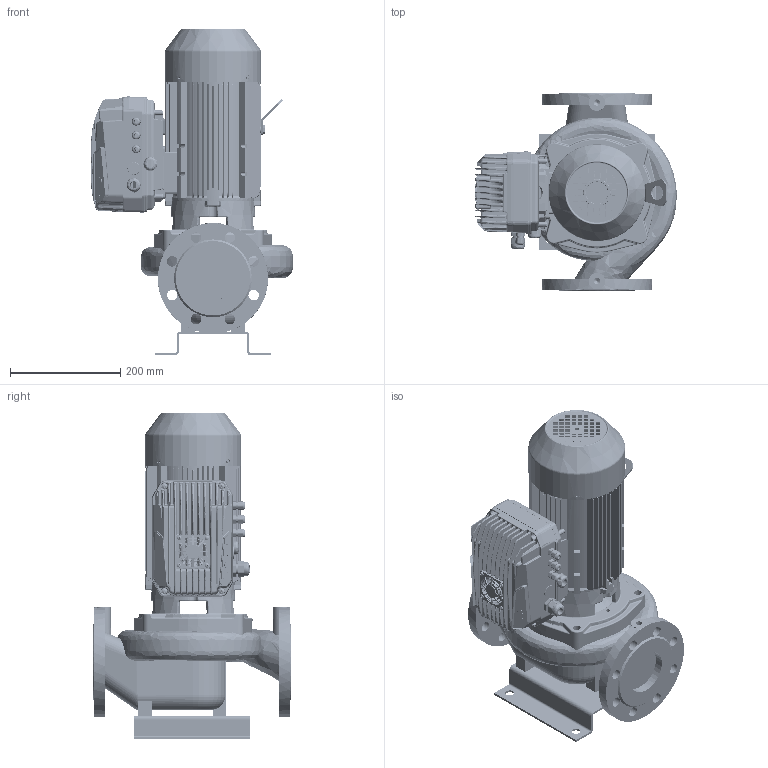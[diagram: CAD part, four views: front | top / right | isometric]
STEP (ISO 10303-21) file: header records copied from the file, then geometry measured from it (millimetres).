
FILE_DESCRIPTION(('STEP AP214'),'1');
FILE_NAME('export.stp','2022-09-07T06:37:46',(' '),(' '),'Spatial InterOp 3D',' ',' ');
FILE_SCHEMA(('AUTOMOTIVE_DESIGN { 1 0 10303 214 1 1 1 1 }'));
Length unit declared in the file: millimetre
Products named in the file (49): V_AdapMida205_407; 210588; DIN_7985-M5X8; W_L80A4_XX_KP90; V_PPL80A; V_JALKA35973; V_TLL65AB80A1102; 160024; 160004_Valu; V_MKP90-2_F19; 480039; 480038___; 160141; 160137; 160138; 160139; 160140; Koura_Ale_M5; Plug_Blind_M20; Sealing_Plug_M20; DIN_7985-M5X12; 480037; 480036___; 160135; 160134; DIN_EN_24017_-_M8_16-Stainless_S; MIDA_180deg; BASE_MIDA_NASTEC_89; 3005020100_AF0_157; PRT0001; PRT0002; PRT0003; PRT0005; PRT0006; PRT0007; V4-25--_-_U7687_PZ_AF0_5; V4-25--_-_U7687_PZ_AF1_5; V4-25--_-_U7687_PZ_AF2_5; V4-25--_-_U7687_PZ_AF3_5; V5-30--_-_U7687_PZ_AF0_5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
Assembly tree (54 placements, depth 4):
  W_L80A4_XX_KP90
    V_AdapMida205_407
      210588
      DIN_7985-M5X8  x2
    V_PPL80A
    V_JALKA35973
    V_TLL65AB80A1102
    V_MKP90-2_F19
      160024
        160004_Valu
      480039
        480038___
      160141
        160137
        160138
        160139
        160140
        Koura_Ale_M5
        Plug_Blind_M20
        Sealing_Plug_M20
        DIN_7985-M5X8
        DIN_7985-M5X12  x4
      480037
        480036___
      160135
      160134  x2
      DIN_EN_24017_-_M8_16-Stainless_S  x2
    Mida205
      MIDA_180deg
        BASE_MIDA_NASTEC_89
        3005020100_AF0_157
        PRT0001
        PRT0002
        PRT0003
        PRT0005
        PRT0006
        PRT0007
        V4-25--_-_U7687_PZ_AF0_5
        V4-25--_-_U7687_PZ_AF1_5
        V4-25--_-_U7687_PZ_AF2_5
        V4-25--_-_U7687_PZ_AF3_5
        V5-30--_-_U7687_PZ_AF0_5
        V5-30--_-_U7687_PZ_AF1_5
        V5-30--_-_U7687_PZ_AF2_5
        V5-30--_-_U7687_PZ_5
        2001300200_32
        TASTIERA_MIDA_2_44
        ETICHETTA_MIDA_9
        TAPPO_PRESSACAVO_M20_5
Bounding box: 366 x 360 x 593 mm (x, y, z)
Volume: 8414317.4 mm3; surface area: 1970000.5 mm2
Topology: 45 solids, 46 shells, 6523 faces, 16922 edges, 10464 vertices
Faces by surface type: plane 2333, cylinder 2035, bspline 1402, cone 424, torus 292, sphere 37
Entity records: 326712 total; most frequent: CARTESIAN_POINT 151304, ORIENTED_EDGE 32894, DIRECTION 24079, EDGE_CURVE 16451, VERTEX_POINT 10255, AXIS2_PLACEMENT_3D 8780, EDGE_LOOP 6919, LINE 6519
